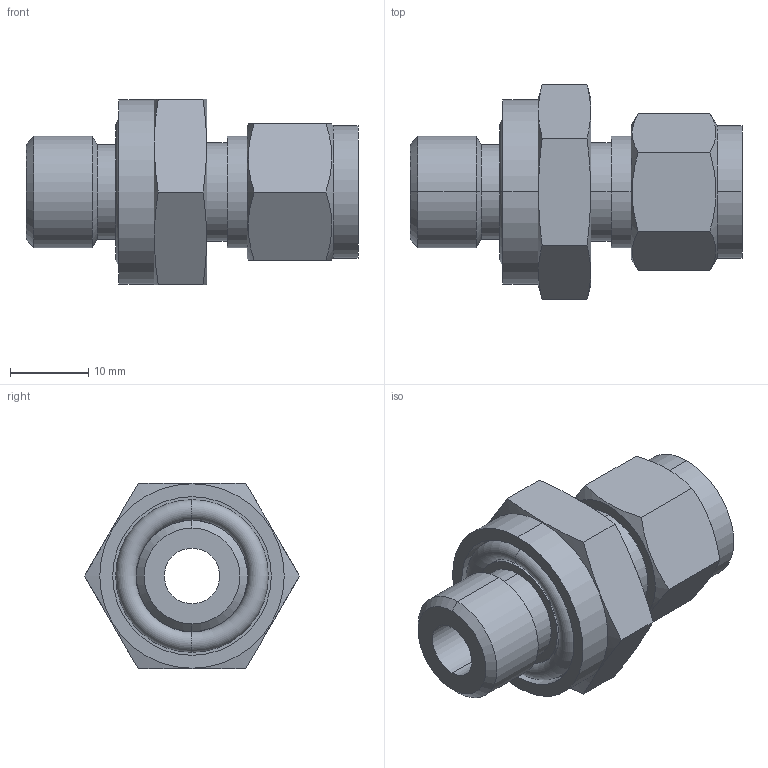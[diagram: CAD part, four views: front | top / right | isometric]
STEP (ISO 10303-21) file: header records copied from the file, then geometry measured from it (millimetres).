
FILE_DESCRIPTION (( 'STEP AP203' ), '1' );
FILE_NAME ('DCO06-06 SS.STEP', '2009-10-08T08:01:52', ( ' ' ), ( '' ), 'SwSTEP 2.0', 'SolidWorks 2008', '' );
FILE_SCHEMA (( 'CONFIG_CONTROL_DESIGN' ));
Length unit declared in the file: millimetre
Products named in the file (1): DCO06-06 SS
Bounding box: 42.5 x 27.49 x 23.81 mm (x, y, z)
Volume: 9050.6 mm3; surface area: 5370.7 mm2
Topology: 2 solids, 2 shells, 61 faces, 136 edges, 84 vertices
Faces by surface type: plane 21, cylinder 20, cone 16, torus 4
Entity records: 1947 total; most frequent: CARTESIAN_POINT 530, DIRECTION 282, ORIENTED_EDGE 272, EDGE_CURVE 136, AXIS2_PLACEMENT_3D 120, VERTEX_POINT 84, EDGE_LOOP 70, ADVANCED_FACE 61
